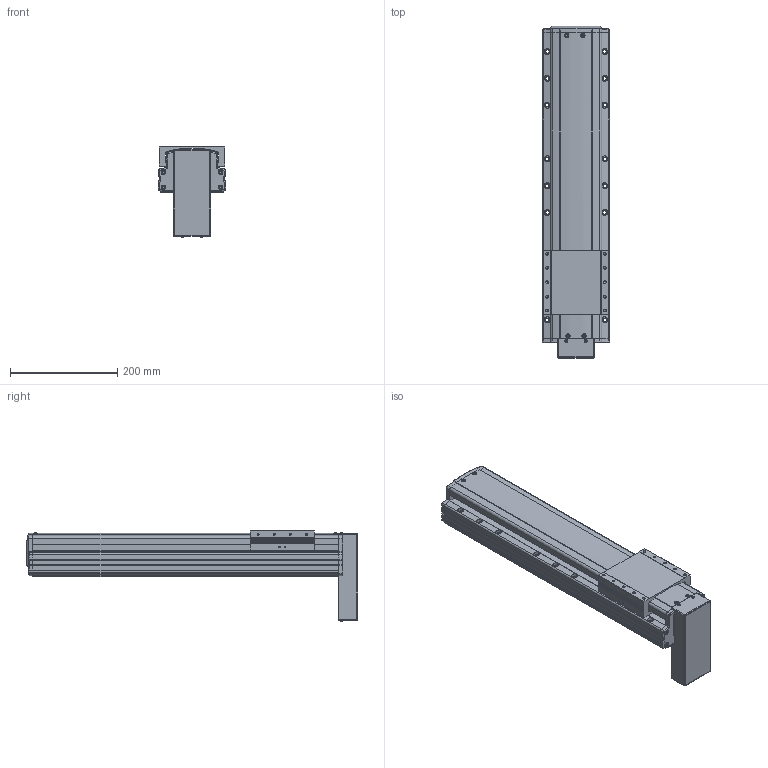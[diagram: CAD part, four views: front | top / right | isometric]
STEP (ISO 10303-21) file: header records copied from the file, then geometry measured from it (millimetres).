
FILE_DESCRIPTION(('STEP AP214'),'1');
FILE_NAME('Z:/Web/3D/PSA125/STP/PSA125-350 (3D)/PSA125ㅁㅁ-350PB.stp','2014-06-23T00:00:39',(' '),(' '),'Spatial InterOp 3D',' ',' ');
FILE_SCHEMA(('automotive_design'));
Length unit declared in the file: millimetre
Products named in the file (29): 스크루 : Round - M4.0 x 10.0; RRCV-PA120; SLIDE; BASE; FRCV-PA120-1(기준 뿔 제거); RR1500; 스크루 : Round - M4.0 x 6.0; 너트 : Square - M10.0 x 220.7419; 1; 2; 파트105; 스크루 : Round - M3.0 x 6.0
Bounding box: 125 x 618.6 x 169.06 mm (x, y, z)
Volume: 5376650.8 mm3; surface area: 490128.5 mm2
Topology: 29 solids, 29 shells, 2102 faces, 5591 edges, 3556 vertices
Faces by surface type: plane 1136, cylinder 608, cone 242, sphere 52, torus 33, bspline 31
Entity records: 83964 total; most frequent: CARTESIAN_POINT 13949, DIRECTION 11172, ORIENTED_EDGE 10922, EDGE_CURVE 5461, AXIS2_PLACEMENT_3D 3779, LINE 3614, VECTOR 3614, VERTEX_POINT 3556
